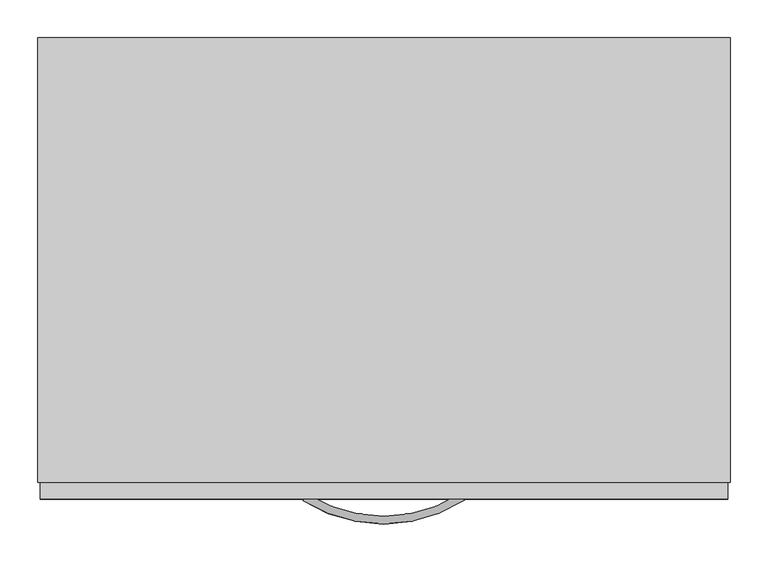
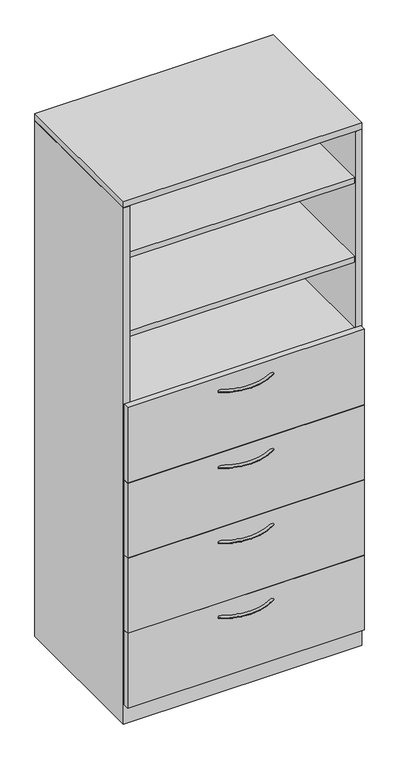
"""IFC4 building model written with IfcOpenShell, lengths in millimetres: furniture geometry, Steelcase - Universal Storage - Cabinet - Combination - Proud Steel : 83 1/2H - Open Cabinet/4 Drawers - 24D x 36W."""

from ifc_helpers import new_model, si_unit, point, frame, origin, place, context, project, spatial, polyline, circle_curve, ellipse_curve, trimmed, outline, extrude, faceted_brep, source, transform, mapped, element, save
from ifc_brep_helpers import plane_surface, revolved_surface, advanced_brep


def furniture_e84f983a(model_context):
    return source(origin(), model_context, "Body", "SolidModel", [
        extrude(outline(polyline([(889.0000242, 104.6479992), (889.0000242, -454.0250121), (25.4000008, -454.0250121), (25.4000008, 104.6479992), (889.0000242, 104.6479992)])), frame((0.0, 0.0, 1273.1750484), z_axis=(0.0, 0.0, 1.0), x_axis=(1.0, 0.0, 0.0)), (0.0, 0.0, 1.0), 22.2249516),
        extrude(outline(polyline([(889.0000242, 104.6479992), (889.0000242, -454.0250121), (25.4000008, -454.0250121), (25.4000008, 104.6479992), (889.0000242, 104.6479992)])), frame((0.0, 0.0, 1562.7350484), z_axis=(0.0, 0.0, 1.0), x_axis=(1.0, 0.0, 0.0)), (0.0, 0.0, 1.0), 22.2249516),
        extrude(outline(polyline([(889.0000242, 104.6479992), (889.0000242, -454.0250121), (25.4000008, -454.0250121), (25.4000008, 104.6479992), (889.0000242, 104.6479992)])), frame((0.0, 0.0, 1882.7750484), z_axis=(0.0, 0.0, 1.0), x_axis=(1.0, 0.0, 0.0)), (0.0, 0.0, 1.0), 22.2249516),
        advanced_brep(
        [(350.6245932, -481.5705994, 1240.6312742), (356.0977519, -473.0108019, 1240.6312742), (562.9315136, -481.1337636, 1240.6312742), (557.4231767, -472.5965612, 1240.6312742)],
        [
            (0, 1, circle_curve(frame((353.3611726, -477.2907007, 1240.6312742), z_axis=(-0.8424997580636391, 0.5386967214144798, 0.0), x_axis=(0.5386967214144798, 0.8424997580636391, 0.0)), 5.08)),
            (1, 0, circle_curve(frame((353.3611726, -477.2907007, 1240.6312742), z_axis=(-0.8424997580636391, 0.5386967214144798, 0.0), x_axis=(0.5386967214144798, 0.8424997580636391, 0.0)), 5.08)),
            (2, 3, circle_curve(frame((560.1773452, -476.8651624, 1240.6312742), z_axis=(0.8402758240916, 0.5421591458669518, 0.0), x_axis=(-0.5421591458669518, 0.8402758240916, 0.0)), 5.08)),
            (3, 2, circle_curve(frame((560.1773452, -476.8651624, 1240.6312742), z_axis=(0.8402758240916, 0.5421591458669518, 0.0), x_axis=(-0.5421591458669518, 0.8402758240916, 0.0)), 5.08)),
            (3, 1, circle_curve(frame((456.4380004, -316.0827352, 1240.6312742), z_axis=(0.0, 0.0, -1.0), x_axis=(-0.5386967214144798, -0.8424997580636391, 0.0)), 186.2648211)),
            (0, 2, circle_curve(frame((456.4380004, -316.0827352, 1240.6312742), z_axis=(0.0, 0.0, 1.0), x_axis=(-0.5386967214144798, -0.8424997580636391, 0.0)), 196.4248211)),
        ],
        [
            plane_surface(frame((353.7794521, -476.6365286, 1241.4250242), z_axis=(-0.8424997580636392, 0.5386967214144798, 0.0), x_axis=(0.0, 0.0, 1.0))),
            plane_surface(frame((559.7563772, -476.2127171, 1241.4250242), z_axis=(0.8402758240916, 0.5421591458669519, 0.0), x_axis=(0.0, 0.0, 1.0))),
            revolved_surface(trimmed(ellipse_curve(frame((353.3611726, -477.2907007, 1240.6312742), z_axis=(-0.8424997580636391, 0.5386967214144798, 0.0), x_axis=(0.5386967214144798, 0.8424997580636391, 0.0)), 5.08, 5.08), [point((350.6245932, -481.5705994, 1240.6312742))], [point((356.0977519, -473.0108019, 1240.6312742))], True, "CARTESIAN"), (456.4380004, -316.0827352, 1241.4250242), (0.0, 0.0, 1.0)),
            revolved_surface(trimmed(ellipse_curve(frame((353.3611726, -477.2907007, 1240.6312742), z_axis=(-0.8424997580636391, 0.5386967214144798, 0.0), x_axis=(0.5386967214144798, 0.8424997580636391, 0.0)), 5.08, 5.08), [point((356.0977519, -473.0108019, 1240.6312742))], [point((350.6245932, -481.5705994, 1240.6312742))], True, "CARTESIAN"), (456.4380004, -316.0827352, 1241.4250242), (0.0, 0.0, 1.0)),
        ],
        [
            (0, [[1, 2]]),
            (1, [[3, 4]]),
            (2, [[5, -1, 6, -4]]),
            (3, [[-6, -2, -5, -3]]),
        ],
    ),
        advanced_brep(
        [(350.6245932, -481.5705994, 323.56425), (356.0977519, -473.0108019, 323.56425), (562.9315136, -481.1337636, 323.56425), (557.4231767, -472.5965612, 323.56425)],
        [
            (0, 1, circle_curve(frame((353.3611726, -477.2907007, 323.56425), z_axis=(-0.8424997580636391, 0.5386967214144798, 0.0), x_axis=(0.5386967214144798, 0.8424997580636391, 0.0)), 5.08)),
            (1, 0, circle_curve(frame((353.3611726, -477.2907007, 323.56425), z_axis=(-0.8424997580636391, 0.5386967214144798, 0.0), x_axis=(0.5386967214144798, 0.8424997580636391, 0.0)), 5.08)),
            (2, 3, circle_curve(frame((560.1773452, -476.8651624, 323.56425), z_axis=(0.8402758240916, 0.5421591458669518, 0.0), x_axis=(-0.5421591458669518, 0.8402758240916, 0.0)), 5.08)),
            (3, 2, circle_curve(frame((560.1773452, -476.8651624, 323.56425), z_axis=(0.8402758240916, 0.5421591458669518, 0.0), x_axis=(-0.5421591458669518, 0.8402758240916, 0.0)), 5.08)),
            (3, 1, circle_curve(frame((456.4380004, -316.0827352, 323.56425), z_axis=(0.0, 0.0, -1.0), x_axis=(-0.5386967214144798, -0.8424997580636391, 0.0)), 186.2648211)),
            (0, 2, circle_curve(frame((456.4380004, -316.0827352, 323.56425), z_axis=(0.0, 0.0, 1.0), x_axis=(-0.5386967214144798, -0.8424997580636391, 0.0)), 196.4248211)),
        ],
        [
            plane_surface(frame((353.7794521, -476.6365286, 324.358), z_axis=(-0.8424997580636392, 0.5386967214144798, 0.0), x_axis=(0.0, 0.0, 1.0))),
            plane_surface(frame((559.7563772, -476.2127171, 324.358), z_axis=(0.8402758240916, 0.5421591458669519, 0.0), x_axis=(0.0, 0.0, 1.0))),
            revolved_surface(trimmed(ellipse_curve(frame((353.3611726, -477.2907007, 323.56425), z_axis=(-0.8424997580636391, 0.5386967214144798, 0.0), x_axis=(0.5386967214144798, 0.8424997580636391, 0.0)), 5.08, 5.08), [point((350.6245932, -481.5705994, 323.56425))], [point((356.0977519, -473.0108019, 323.56425))], True, "CARTESIAN"), (456.4380004, -316.0827352, 324.358), (0.0, 0.0, 1.0)),
            revolved_surface(trimmed(ellipse_curve(frame((353.3611726, -477.2907007, 323.56425), z_axis=(-0.8424997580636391, 0.5386967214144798, 0.0), x_axis=(0.5386967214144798, 0.8424997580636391, 0.0)), 5.08, 5.08), [point((356.0977519, -473.0108019, 323.56425))], [point((350.6245932, -481.5705994, 323.56425))], True, "CARTESIAN"), (456.4380004, -316.0827352, 324.358), (0.0, 0.0, 1.0)),
        ],
        [
            (0, [[1, 2]]),
            (1, [[3, 4]]),
            (2, [[5, -1, 6, -4]]),
            (3, [[-6, -2, -5, -3]]),
        ],
    ),
        advanced_brep(
        [(350.6245932, -481.5705994, 627.85625), (356.0977519, -473.0108019, 627.85625), (562.9315136, -481.1337636, 627.85625), (557.4231767, -472.5965612, 627.85625)],
        [
            (0, 1, circle_curve(frame((353.3611726, -477.2907007, 627.85625), z_axis=(-0.8424997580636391, 0.5386967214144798, 0.0), x_axis=(0.5386967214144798, 0.8424997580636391, 0.0)), 5.08)),
            (1, 0, circle_curve(frame((353.3611726, -477.2907007, 627.85625), z_axis=(-0.8424997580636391, 0.5386967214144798, 0.0), x_axis=(0.5386967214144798, 0.8424997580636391, 0.0)), 5.08)),
            (2, 3, circle_curve(frame((560.1773452, -476.8651624, 627.85625), z_axis=(0.8402758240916, 0.5421591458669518, 0.0), x_axis=(-0.5421591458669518, 0.8402758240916, 0.0)), 5.08)),
            (3, 2, circle_curve(frame((560.1773452, -476.8651624, 627.85625), z_axis=(0.8402758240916, 0.5421591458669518, 0.0), x_axis=(-0.5421591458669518, 0.8402758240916, 0.0)), 5.08)),
            (3, 1, circle_curve(frame((456.4380004, -316.0827352, 627.85625), z_axis=(0.0, 0.0, -1.0), x_axis=(-0.5386967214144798, -0.8424997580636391, 0.0)), 186.2648211)),
            (0, 2, circle_curve(frame((456.4380004, -316.0827352, 627.85625), z_axis=(0.0, 0.0, 1.0), x_axis=(-0.5386967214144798, -0.8424997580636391, 0.0)), 196.4248211)),
        ],
        [
            plane_surface(frame((353.7794521, -476.6365286, 628.65), z_axis=(-0.8424997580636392, 0.5386967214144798, 0.0), x_axis=(0.0, 0.0, 1.0))),
            plane_surface(frame((559.7563772, -476.2127171, 628.65), z_axis=(0.8402758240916, 0.5421591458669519, 0.0), x_axis=(0.0, 0.0, 1.0))),
            revolved_surface(trimmed(ellipse_curve(frame((353.3611726, -477.2907007, 627.85625), z_axis=(-0.8424997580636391, 0.5386967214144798, 0.0), x_axis=(0.5386967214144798, 0.8424997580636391, 0.0)), 5.08, 5.08), [point((350.6245932, -481.5705994, 627.85625))], [point((356.0977519, -473.0108019, 627.85625))], True, "CARTESIAN"), (456.4380004, -316.0827352, 628.65), (0.0, 0.0, 1.0)),
            revolved_surface(trimmed(ellipse_curve(frame((353.3611726, -477.2907007, 627.85625), z_axis=(-0.8424997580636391, 0.5386967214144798, 0.0), x_axis=(0.5386967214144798, 0.8424997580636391, 0.0)), 5.08, 5.08), [point((356.0977519, -473.0108019, 627.85625))], [point((350.6245932, -481.5705994, 627.85625))], True, "CARTESIAN"), (456.4380004, -316.0827352, 628.65), (0.0, 0.0, 1.0)),
        ],
        [
            (0, [[1, 2]]),
            (1, [[3, 4]]),
            (2, [[5, -1, 6, -4]]),
            (3, [[-6, -2, -5, -3]]),
        ],
    ),
        extrude(outline(polyline([(911.2225413, -479.552), (3.1725353, -479.552), (3.1725353, -457.3261219), (911.2225413, -457.3261219), (911.2225413, -479.552)])), frame((0.0, 0.0, 992.1240349), z_axis=(0.0, 0.0, 1.0), x_axis=(1.0, 0.0, 0.0)), (0.0, 0.0, 1.0), 306.4509893),
        extrude(outline(polyline([(911.2225413, -479.552), (3.1725353, -479.552), (3.1725353, -457.3261219), (911.2225413, -457.3261219), (911.2225413, -479.552)])), frame((0.0, 0.0, 687.3240349), z_axis=(0.0, 0.0, 1.0), x_axis=(1.0, 0.0, 0.0)), (0.0, 0.0, 1.0), 303.2759651),
        advanced_brep(
        [(350.6245932, -481.5705994, 932.65625), (356.0977519, -473.0108019, 932.65625), (562.9315136, -481.1337636, 932.65625), (557.4231767, -472.5965612, 932.65625)],
        [
            (0, 1, circle_curve(frame((353.3611726, -477.2907007, 932.65625), z_axis=(-0.8424997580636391, 0.5386967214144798, 0.0), x_axis=(0.5386967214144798, 0.8424997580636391, 0.0)), 5.08)),
            (1, 0, circle_curve(frame((353.3611726, -477.2907007, 932.65625), z_axis=(-0.8424997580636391, 0.5386967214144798, 0.0), x_axis=(0.5386967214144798, 0.8424997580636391, 0.0)), 5.08)),
            (2, 3, circle_curve(frame((560.1773452, -476.8651624, 932.65625), z_axis=(0.8402758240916, 0.5421591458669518, 0.0), x_axis=(-0.5421591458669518, 0.8402758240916, 0.0)), 5.08)),
            (3, 2, circle_curve(frame((560.1773452, -476.8651624, 932.65625), z_axis=(0.8402758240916, 0.5421591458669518, 0.0), x_axis=(-0.5421591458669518, 0.8402758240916, 0.0)), 5.08)),
            (3, 1, circle_curve(frame((456.4380004, -316.0827352, 932.65625), z_axis=(0.0, 0.0, -1.0), x_axis=(-0.5386967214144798, -0.8424997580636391, 0.0)), 186.2648211)),
            (0, 2, circle_curve(frame((456.4380004, -316.0827352, 932.65625), z_axis=(0.0, 0.0, 1.0), x_axis=(-0.5386967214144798, -0.8424997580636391, 0.0)), 196.4248211)),
        ],
        [
            plane_surface(frame((353.7794521, -476.6365286, 933.45), z_axis=(-0.8424997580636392, 0.5386967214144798, 0.0), x_axis=(0.0, 0.0, 1.0))),
            plane_surface(frame((559.7563772, -476.2127171, 933.45), z_axis=(0.8402758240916, 0.5421591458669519, 0.0), x_axis=(0.0, 0.0, 1.0))),
            revolved_surface(trimmed(ellipse_curve(frame((353.3611726, -477.2907007, 932.65625), z_axis=(-0.8424997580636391, 0.5386967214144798, 0.0), x_axis=(0.5386967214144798, 0.8424997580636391, 0.0)), 5.08, 5.08), [point((350.6245932, -481.5705994, 932.65625))], [point((356.0977519, -473.0108019, 932.65625))], True, "CARTESIAN"), (456.4380004, -316.0827352, 933.45), (0.0, 0.0, 1.0)),
            revolved_surface(trimmed(ellipse_curve(frame((353.3611726, -477.2907007, 932.65625), z_axis=(-0.8424997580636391, 0.5386967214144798, 0.0), x_axis=(0.5386967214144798, 0.8424997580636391, 0.0)), 5.08, 5.08), [point((356.0977519, -473.0108019, 932.65625))], [point((350.6245932, -481.5705994, 932.65625))], True, "CARTESIAN"), (456.4380004, -316.0827352, 933.45), (0.0, 0.0, 1.0)),
        ],
        [
            (0, [[1, 2]]),
            (1, [[3, 4]]),
            (2, [[5, -1, 6, -4]]),
            (3, [[-6, -2, -5, -3]]),
        ],
    ),
        faceted_brep([(25.4000008, -457.3261219, 76.2), (889.0000242, -457.3261219, 76.2), (889.0000242, 104.6479992, 76.2), (25.4000008, 104.6479992, 76.2), (914.4, 130.048, 0.0), (914.4, -457.3261219, 0.0), (0.0, -457.3261219, 0.0), (0.0, 130.048, 0.0), (0.0, 130.048, 2093.976), (914.4, 130.048, 2093.976), (0.0, -457.3261219, 2093.976), (914.4, -457.3261219, 2093.976), (889.0000242, -457.3261219, 2093.976), (25.4000008, -457.3261219, 2093.976), (889.0000242, 104.6479992, 2093.976), (25.4000008, 104.6479992, 2093.976)], [[[0, 1, 2, 3]], [[4, 5, 6, 7]], [[4, 7, 8, 9]], [[8, 7, 6, 10]], [[10, 6, 5, 11, 12, 1, 0, 13]], [[11, 5, 4, 9]], [[14, 12, 11, 9, 8, 10, 13, 15]], [[12, 14, 2, 1]], [[15, 13, 0, 3]], [[14, 15, 3, 2]]]),
        extrude(outline(polyline([(911.2225413, -479.552), (3.1725353, -479.552), (3.1725353, -457.3261219), (911.2225413, -457.3261219), (911.2225413, -479.552)])), frame((0.0, 0.0, 77.724), z_axis=(0.0, 0.0, 1.0), x_axis=(1.0, 0.0, 0.0)), (0.0, 0.0, 1.0), 303.276),
        extrude(outline(polyline([(911.2225413, -479.552), (3.1725353, -479.552), (3.1725353, -457.3261219), (911.2225413, -457.3261219), (911.2225413, -479.552)])), frame((0.0, 0.0, 382.524), z_axis=(0.0, 0.0, 1.0), x_axis=(1.0, 0.0, 0.0)), (0.0, 0.0, 1.0), 303.276),
        extrude(outline(polyline([(914.4, 130.048), (914.4, -457.3261219), (0.0, -457.3261219), (0.0, 130.048), (914.4, 130.048)])), frame((0.0, 0.0, 2095.4999516), z_axis=(0.0, 0.0, 1.0), x_axis=(1.0, 0.0, 0.0)), (0.0, 0.0, 1.0), 25.4000484),
    ])


if __name__ == "__main__":
    model = new_model("IFC4")
    model_context = context("Model", 3, world=origin())
    ifc_project = project(units=[si_unit("LENGTHUNIT", "METRE", prefix="MILLI")], contexts=[model_context])
    site = spatial("IfcSite", under=ifc_project)
    building = spatial("IfcBuilding", under=site)
    placement = place(None, origin())
    furniture_shape = furniture_e84f983a(model_context)
    element("IfcFurniture", 1, ObjectType="Steelcase - Universal Storage - Cabinet - Combination - Proud Steel : 83 1/2H - Open Cabinet/4 Drawers - 24D x 36W", at=placement, inside=building, context=model_context, shape_type="MappedRepresentation", body=[
        mapped(furniture_shape, transform((0.0, 0.0, 0.0), x_axis=(1.0, 0.0, 0.0), y_axis=(0.0, 1.0, 0.0), z_axis=(0.0, 0.0, 1.0))),
    ])
    save(model, "model.ifc")
